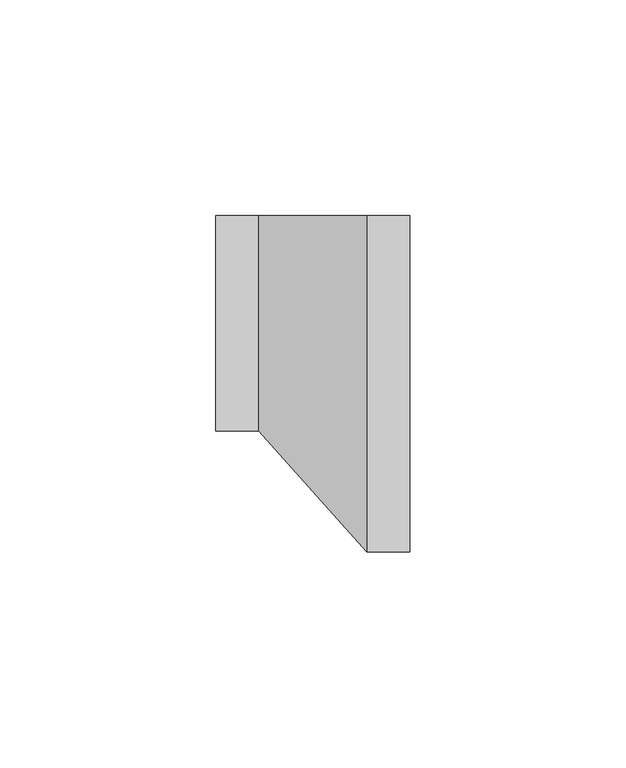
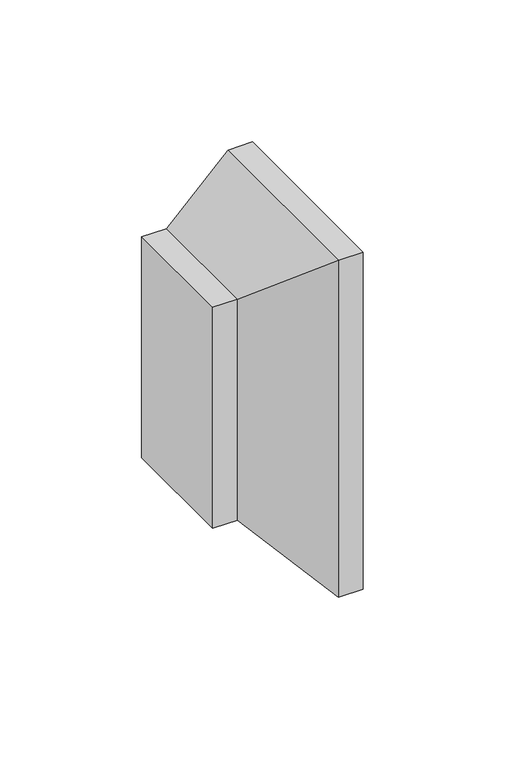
"""IFC4 building model written with IfcOpenShell, lengths in millimetres: duct fitting geometry, КНС_ВводВСтену_DKC : Ввод в стену."""

from ifc_helpers import new_model, si_unit, origin, place, context, project, spatial, faceted_brep, source, transform, mapped, element, save


def duct_fitting_a4a51427(model_context):
    return source(origin(), model_context, "Body", "Brep", [
        faceted_brep([(20.1665888, -40.0757244, 47.5), (45.1665888, -68.0757244, 72.5), (45.1665888, 9.9242756, 72.5), (20.1665888, 9.9242756, 47.5), (20.1665888, -40.0757244, -47.5), (45.1665888, -68.0757244, -72.5), (20.1665888, 9.9242756, -47.5), (45.1665888, 9.9242756, -72.5), (55.1665888, 9.9242756, 72.5), (55.1665888, 9.9242756, -72.5), (10.1665888, 9.9242756, -47.5), (10.1665888, 9.9242756, 47.5), (10.1665888, -40.0757244, -47.5), (10.1665888, -40.0757244, 47.5), (55.1665888, -68.0757244, 72.5), (55.1665888, -68.0757244, -72.5)], [[[0, 1, 2, 3]], [[1, 0, 4, 5]], [[5, 4, 6, 7]], [[3, 2, 8, 9, 7, 6, 10, 11]], [[12, 4, 0, 13]], [[4, 12, 10, 6]], [[13, 0, 3, 11]], [[12, 13, 11, 10]], [[1, 14, 8, 2]], [[7, 9, 15, 5]], [[14, 1, 5, 15]], [[8, 14, 15, 9]]]),
    ])


if __name__ == "__main__":
    model = new_model("IFC4")
    model_context = context("Model", 3, world=origin())
    ifc_project = project(units=[si_unit("LENGTHUNIT", "METRE", prefix="MILLI")], contexts=[model_context])
    site = spatial("IfcSite", under=ifc_project)
    building = spatial("IfcBuilding", under=site)
    placement = place(None, origin())
    duct_fitting_shape = duct_fitting_a4a51427(model_context)
    element("IfcDuctFitting", 1, ObjectType="КНС_ВводВСтену_DKC : Ввод в стену", at=placement, inside=building, context=model_context, shape_type="MappedRepresentation", body=[
        mapped(duct_fitting_shape, transform((0.0, 0.0, 0.0), x_axis=(1.0, 0.0, 0.0), y_axis=(0.0, 1.0, 0.0), z_axis=(0.0, 0.0, 1.0))),
    ])
    save(model, "model.ifc")
